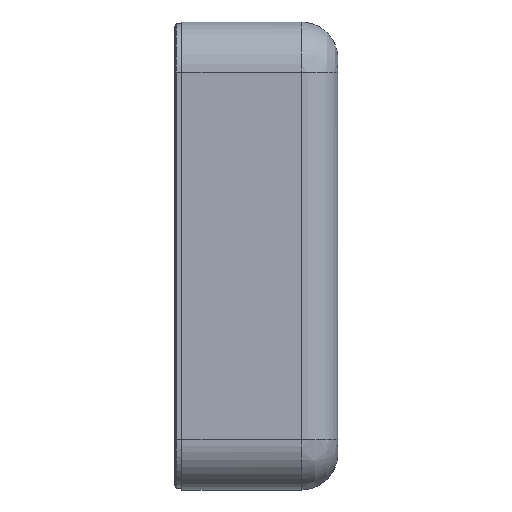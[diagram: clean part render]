
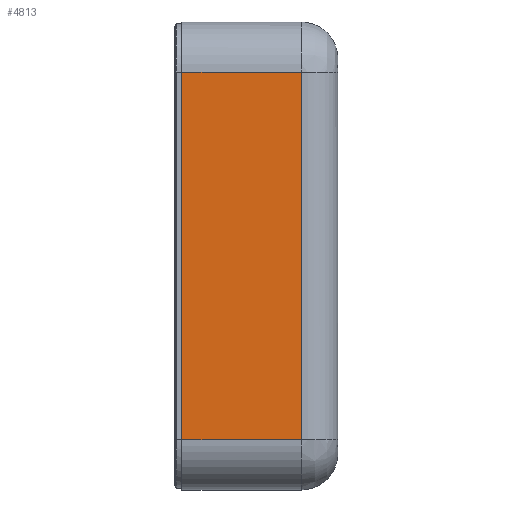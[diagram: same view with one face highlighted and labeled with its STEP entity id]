
A CAD part, left-side view. The second image highlights one B-rep face of the part: STEP entity #4813.
In plain terms, the highlighted planar face has unit normal (-1, 0, 0).
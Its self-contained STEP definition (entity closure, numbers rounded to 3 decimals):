
#4813 = ADVANCED_FACE ( 'NONE', ( #55375 ), #58303, .T. ) ;
#6259 = CARTESIAN_POINT ( 'NONE',  ( -9.076, -0.1, -5.003 ) ) ;
#18170 = LINE ( 'NONE', #33720, #70487 ) ;
#18269 = VERTEX_POINT ( 'NONE', #40639 ) ;
#21270 = DIRECTION ( 'NONE',  ( -1., 0., 0. ) ) ;
#25493 = VECTOR ( 'NONE', #72869, 39.37 ) ;
#33720 = CARTESIAN_POINT ( 'NONE',  ( -9.076, -3.25, -5.003 ) ) ;
#36339 = VERTEX_POINT ( 'NONE', #70288 ) ;
#36581 = AXIS2_PLACEMENT_3D ( 'NONE', #6259, #21270, #73263 ) ;
#40094 = EDGE_CURVE ( 'NONE', #68642, #36339, #86142, .T. ) ;
#40639 = CARTESIAN_POINT ( 'NONE',  ( -9.076, -3.25, 5.009 ) ) ;
#42739 = ORIENTED_EDGE ( 'NONE', *, *, #61418, .T. ) ;
#44398 = CARTESIAN_POINT ( 'NONE',  ( -9.076, -0.1, -5.003 ) ) ;
#45288 = VECTOR ( 'NONE', #49778, 39.37 ) ;
#46076 = EDGE_CURVE ( 'NONE', #36339, #95132, #87088, .T. ) ;
#49705 = ORIENTED_EDGE ( 'NONE', *, *, #78212, .T. ) ;
#49778 = DIRECTION ( 'NONE',  ( 0., 1., 0. ) ) ;
#54024 = CARTESIAN_POINT ( 'NONE',  ( -9.076, 0., 5.009 ) ) ;
#55375 = FACE_OUTER_BOUND ( 'NONE', #72244, .T. ) ;
#58303 = PLANE ( 'NONE',  #36581 ) ;
#59315 = DIRECTION ( 'NONE',  ( 0., 1., 0. ) ) ;
#61418 = EDGE_CURVE ( 'NONE', #18269, #95132, #80129, .T. ) ;
#66427 = VECTOR ( 'NONE', #59315, 39.37 ) ;
#68642 = VERTEX_POINT ( 'NONE', #70281 ) ;
#70281 = CARTESIAN_POINT ( 'NONE',  ( -9.076, -3.25, -5.003 ) ) ;
#70288 = CARTESIAN_POINT ( 'NONE',  ( -9.076, 0., -5.003 ) ) ;
#70487 = VECTOR ( 'NONE', #85690, 39.37 ) ;
#72244 = EDGE_LOOP ( 'NONE', ( #96020, #49705, #42739, #86226 ) ) ;
#72869 = DIRECTION ( 'NONE',  ( 0., 0., 1. ) ) ;
#73263 = DIRECTION ( 'NONE',  ( 0., 0., 1. ) ) ;
#78212 = EDGE_CURVE ( 'NONE', #68642, #18269, #18170, .T. ) ;
#80129 = LINE ( 'NONE', #94213, #45288 ) ;
#85690 = DIRECTION ( 'NONE',  ( 0., 0., 1. ) ) ;
#86142 = LINE ( 'NONE', #44398, #66427 ) ;
#86226 = ORIENTED_EDGE ( 'NONE', *, *, #46076, .F. ) ;
#87088 = LINE ( 'NONE', #93918, #25493 ) ;
#93918 = CARTESIAN_POINT ( 'NONE',  ( -9.076, 0., -5.003 ) ) ;
#94213 = CARTESIAN_POINT ( 'NONE',  ( -9.076, -0.1, 5.009 ) ) ;
#95132 = VERTEX_POINT ( 'NONE', #54024 ) ;
#96020 = ORIENTED_EDGE ( 'NONE', *, *, #40094, .F. ) ;
